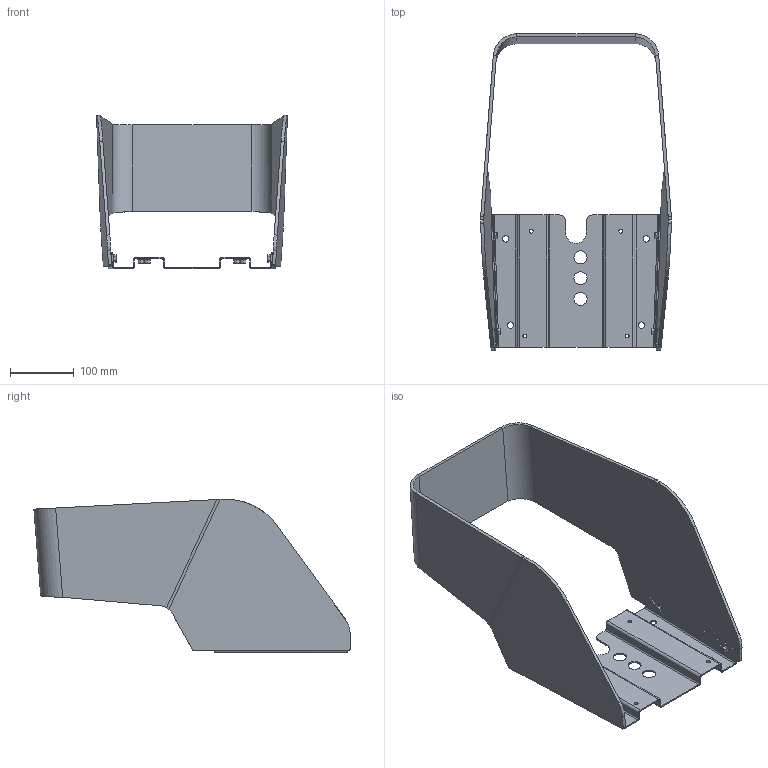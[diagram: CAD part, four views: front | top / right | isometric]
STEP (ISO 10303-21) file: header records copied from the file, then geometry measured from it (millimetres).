
FILE_DESCRIPTION((''),'2;1');
FILE_NAME('WSD_SW0001','2022-01-05T12:28:16',('hoffmannf'),('MENNEKES'),'CREO PARAMETRIC BY PTC INC, 2019080','CREO PARAMETRIC BY PTC INC, 2019080','');
FILE_SCHEMA(('AUTOMOTIVE_DESIGN { 1 0 10303 214 1 1 1 1 }'));
Length unit declared in the file: millimetre
Products named in the file (1): WSD_SW0001
Bounding box: 298.77 x 494.84 x 240.49 mm (x, y, z)
Volume: 1110270.4 mm3; surface area: 546281.8 mm2
Topology: 1 solids, 1 shells, 360 faces, 908 edges, 564 vertices
Faces by surface type: plane 163, cylinder 117, bspline 32, cone 24, torus 24
Entity records: 16114 total; most frequent: CARTESIAN_POINT 4655, ORIENTED_EDGE 1816, DIRECTION 1744, EDGE_CURVE 908, AXIS2_PLACEMENT_3D 660, VERTEX_POINT 564, VECTOR 424, LINE 424
